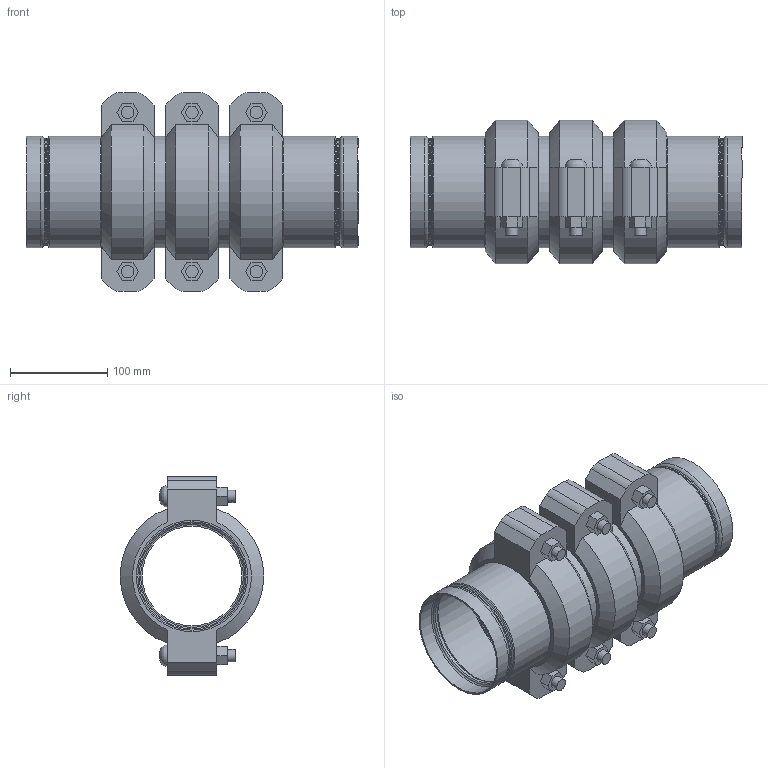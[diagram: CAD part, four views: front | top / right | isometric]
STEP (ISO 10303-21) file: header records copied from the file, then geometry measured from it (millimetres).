
FILE_DESCRIPTION(/* description */ ('VIC STRENGTHIN 100 EXPANSION JOINT 3 COUPLINGS EXPANDED STYLE E155 (ST1)','CAx-IF Rec.Pracs.---Representation and Presentation of Product Manufacturing Information (PMI)---4.0---2014-10-13'),/* implementation_level */ '2;1');
FILE_NAME(/* name */ 'C:\Users\Vjadhav\AppData\Roaming\Autodesk\ApplicationPlugins\Victaulic.Temp\A946\Victaulic_SS-StrengThin 100_Expansion Joint_Expanded_3 Couplings_Style E155 (ST1)_4 (100).stp',/* time_stamp */ '2021-07-23T19:28:14+06:00',/* author */ ('kkamble'),/* organization */ ('Victaulic'),/* preprocessor_version */ 'ST-DEVELOPER v17.2',/* originating_system */ 'Autodesk Inventor 2019',/* authorisation */ '');
FILE_SCHEMA (('AP242_MANAGED_MODEL_BASED_3D_ENGINEERING_MIM_LF { 1 0 10303 442 1 1 4 }'));
Length unit declared in the file: inch
Products named in the file (4): E155-04.0; E494G-04.0; Nipple-04.0; 075-04.0
Assembly tree (7 placements, depth 2):
  E155-04.0
    E494G-04.0  x2
    Nipple-04.0  x2
    075-04.0  x3
Bounding box: 340.87 x 147.32 x 203.96 mm (x, y, z)
Volume: 1788060.4 mm3; surface area: 482508.9 mm2
Topology: 7 solids, 13 shells, 263 faces, 681 edges, 484 vertices
Faces by surface type: plane 132, cylinder 77, torus 32, cone 16, bspline 6
Full cylindrical faces by diameter (mm): 12.7 x12, 14.605 x6, 102.26 x2, 105.639 x2, 106.883 x2, 107.95 x3, 108.839 x2, 110.084 x6, 111.1 x6, 114.3 x18
Entity records: 3718 total; most frequent: DIRECTION 657, CARTESIAN_POINT 653, ORIENTED_EDGE 548, AXIS2_PLACEMENT_3D 279, EDGE_CURVE 274, VERTEX_POINT 197, CIRCLE 167, EDGE_LOOP 129
